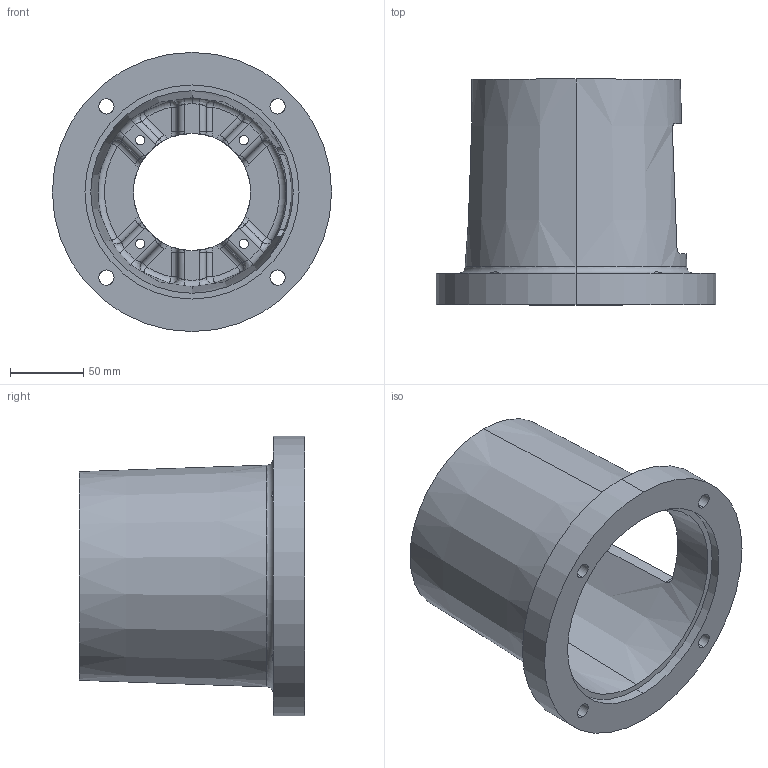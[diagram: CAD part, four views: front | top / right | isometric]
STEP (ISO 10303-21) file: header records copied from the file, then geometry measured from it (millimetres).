
FILE_DESCRIPTION (( 'STEP AP203' ), '1' );
FILE_NAME ('E5756080MS.STEP', '2014-11-03T16:13:04', ( '' ), ( '' ), 'SwSTEP 2.0', 'SolidWorks 2014', '' );
FILE_SCHEMA (( 'CONFIG_CONTROL_DESIGN' ));
Length unit declared in the file: inch
Products named in the file (1): E5756080MS
Bounding box: 190.5 x 153.92 x 190.5 mm (x, y, z)
Volume: 736978 mm3; surface area: 175749.3 mm2
Topology: 1 solids, 1 shells, 173 faces, 444 edges, 259 vertices
Faces by surface type: cylinder 62, torus 39, plane 32, bspline 24, sphere 12, cone 4
Entity records: 7281 total; most frequent: CARTESIAN_POINT 3143, DIRECTION 874, ORIENTED_EDGE 864, EDGE_CURVE 432, AXIS2_PLACEMENT_3D 384, VERTEX_POINT 259, CIRCLE 234, EDGE_LOOP 191
